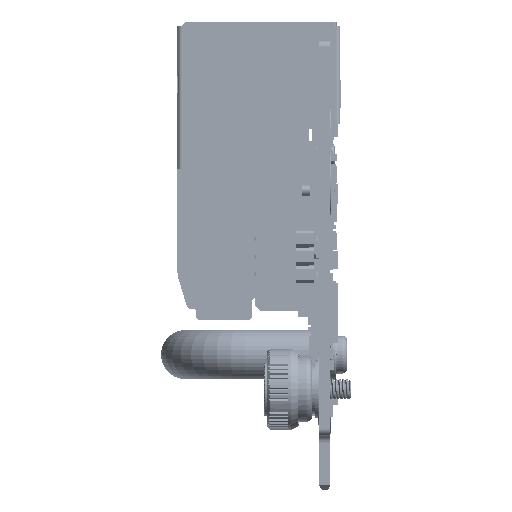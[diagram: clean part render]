
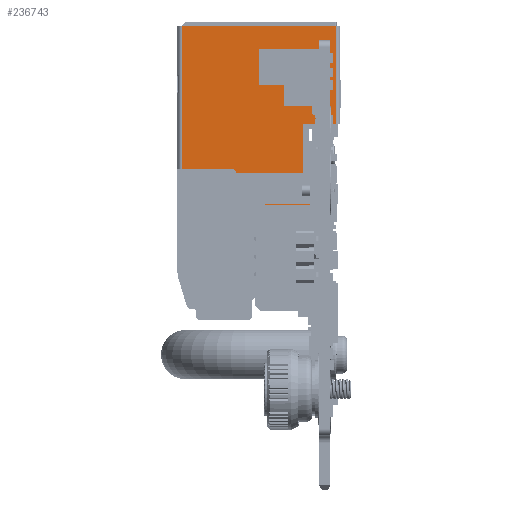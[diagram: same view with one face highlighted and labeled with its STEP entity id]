
A CAD part, left-side view. The second image highlights one B-rep face of the part: STEP entity #236743.
In plain terms, the highlighted planar face has unit normal (-1, 0, 0) as drawn and (0, 1, 0) by its records, which use the part's own axes.
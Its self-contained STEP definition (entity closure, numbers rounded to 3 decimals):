
#225824=DIRECTION('',(0.,0.,1.));
#225825=VECTOR('',#225824,21.88);
#225826=CARTESIAN_POINT('',(0.6,6.5,-10.99));
#225827=LINE('',#225826,#225825);
#226032=DIRECTION('',(1.,0.,0.));
#226033=VECTOR('',#226032,20.25);
#226034=CARTESIAN_POINT('',(0.6,6.5,10.89));
#226035=LINE('',#226034,#226033);
#226036=CARTESIAN_POINT('',(21.35,6.5,3.715));
#226037=DIRECTION('',(0.,1.,0.));
#226038=DIRECTION('',(0.,0.,-1.));
#226039=AXIS2_PLACEMENT_3D('',#226036,#226037,#226038);
#226041=DIRECTION('',(0.,0.,1.));
#226042=VECTOR('',#226041,4.705);
#226043=CARTESIAN_POINT('',(14.55,6.5,-10.99));
#226044=LINE('',#226043,#226042);
#226045=DIRECTION('',(0.,0.,1.));
#226046=VECTOR('',#226045,7.007);
#226047=CARTESIAN_POINT('',(25.925,6.5,-8.035));
#226048=LINE('',#226047,#226046);
#226049=CARTESIAN_POINT('',(22.925,6.5,-1.028));
#226050=DIRECTION('',(0.,-1.,0.));
#226051=DIRECTION('',(1.,0.,0.));
#226052=AXIS2_PLACEMENT_3D('',#226049,#226050,#226051);
#226054=DIRECTION('',(-0.707,0.,0.707));
#226055=VECTOR('',#226054,1.757);
#226056=CARTESIAN_POINT('',(25.046,6.5,1.094));
#226057=LINE('',#226056,#226055);
#226058=CARTESIAN_POINT('',(21.682,6.5,0.215));
#226059=DIRECTION('',(0.,-1.,0.));
#226060=DIRECTION('',(0.707,0.,0.707));
#226061=AXIS2_PLACEMENT_3D('',#226058,#226059,#226060);
#226063=DIRECTION('',(1.,0.,0.));
#226064=VECTOR('',#226063,0.332);
#226065=CARTESIAN_POINT('',(21.35,6.5,3.215));
#226066=LINE('',#226065,#226064);
#226079=DIRECTION('',(0.,0.,-1.));
#226080=VECTOR('',#226079,7.175);
#226081=CARTESIAN_POINT('',(20.85,6.5,10.89));
#226082=LINE('',#226081,#226080);
#226209=DIRECTION('',(-1.,0.,0.));
#226210=VECTOR('',#226209,4.);
#226211=CARTESIAN_POINT('',(25.925,6.5,-8.035));
#226212=LINE('',#226211,#226210);
#226235=DIRECTION('',(0.,0.,1.));
#226236=VECTOR('',#226235,1.75);
#226237=CARTESIAN_POINT('',(21.925,6.5,-8.035));
#226238=LINE('',#226237,#226236);
#226243=DIRECTION('',(-1.,0.,0.));
#226244=VECTOR('',#226243,7.375);
#226245=CARTESIAN_POINT('',(21.925,6.5,-6.285));
#226246=LINE('',#226245,#226244);
#226269=DIRECTION('',(-1.,0.,0.));
#226270=VECTOR('',#226269,13.95);
#226271=CARTESIAN_POINT('',(14.55,6.5,-10.99));
#226272=LINE('',#226271,#226270);
#232736=CARTESIAN_POINT('',(0.6,6.5,-10.99));
#232737=VERTEX_POINT('',#232736);
#232738=CARTESIAN_POINT('',(0.6,6.5,10.89));
#232739=VERTEX_POINT('',#232738);
#232774=CARTESIAN_POINT('',(20.85,6.5,10.89));
#232775=VERTEX_POINT('',#232774);
#232786=CARTESIAN_POINT('',(21.35,6.5,3.215));
#232787=CARTESIAN_POINT('',(21.682,6.5,3.215));
#232788=VERTEX_POINT('',#232786);
#232789=VERTEX_POINT('',#232787);
#232790=CARTESIAN_POINT('',(20.85,6.5,3.715));
#232791=VERTEX_POINT('',#232790);
#232792=CARTESIAN_POINT('',(14.55,6.5,-10.99));
#232793=VERTEX_POINT('',#232792);
#232794=CARTESIAN_POINT('',(14.55,6.5,-6.285));
#232795=VERTEX_POINT('',#232794);
#232796=CARTESIAN_POINT('',(21.925,6.5,-6.285));
#232797=VERTEX_POINT('',#232796);
#232798=CARTESIAN_POINT('',(21.925,6.5,-8.035));
#232799=VERTEX_POINT('',#232798);
#232800=CARTESIAN_POINT('',(25.925,6.5,-8.035));
#232801=VERTEX_POINT('',#232800);
#232802=CARTESIAN_POINT('',(25.925,6.5,-1.028));
#232803=VERTEX_POINT('',#232802);
#232804=CARTESIAN_POINT('',(25.046,6.5,1.094));
#232805=VERTEX_POINT('',#232804);
#232806=CARTESIAN_POINT('',(23.804,6.5,2.336));
#232807=VERTEX_POINT('',#232806);
#236710=CARTESIAN_POINT('',(0.6,6.5,-11.19));
#236711=DIRECTION('',(0.,-1.,0.));
#236712=DIRECTION('',(0.,0.,1.));
#236713=AXIS2_PLACEMENT_3D('',#236710,#236711,#236712);
#236714=PLANE('',#236713);
#236716=ORIENTED_EDGE('',*,*,#236715,.F.);
#236718=ORIENTED_EDGE('',*,*,#236717,.T.);
#236720=ORIENTED_EDGE('',*,*,#236719,.F.);
#236721=ORIENTED_EDGE('',*,*,#236705,.F.);
#236722=ORIENTED_EDGE('',*,*,#236449,.F.);
#236724=ORIENTED_EDGE('',*,*,#236723,.F.);
#236726=ORIENTED_EDGE('',*,*,#236725,.T.);
#236728=ORIENTED_EDGE('',*,*,#236727,.F.);
#236730=ORIENTED_EDGE('',*,*,#236729,.F.);
#236732=ORIENTED_EDGE('',*,*,#236731,.F.);
#236734=ORIENTED_EDGE('',*,*,#236733,.T.);
#236736=ORIENTED_EDGE('',*,*,#236735,.T.);
#236738=ORIENTED_EDGE('',*,*,#236737,.T.);
#236740=ORIENTED_EDGE('',*,*,#236739,.T.);
#236741=EDGE_LOOP('',(#236716,#236718,#236720,#236721,#236722,#236724,#236726,
#236728,#236730,#236732,#236734,#236736,#236738,#236740));
#236742=FACE_OUTER_BOUND('',#236741,.F.);
#236743=ADVANCED_FACE('',(#236742),#236714,.F.);
#226040=CIRCLE('',#226039,0.5);
#226053=CIRCLE('',#226052,3.);
#226062=CIRCLE('',#226061,3.);
#236449=EDGE_CURVE('',#232737,#232739,#225827,.T.);
#236705=EDGE_CURVE('',#232739,#232775,#226035,.T.);
#236715=EDGE_CURVE('',#232788,#232789,#226066,.T.);
#236717=EDGE_CURVE('',#232788,#232791,#226040,.T.);
#236719=EDGE_CURVE('',#232775,#232791,#226082,.T.);
#236723=EDGE_CURVE('',#232793,#232737,#226272,.T.);
#236725=EDGE_CURVE('',#232793,#232795,#226044,.T.);
#236727=EDGE_CURVE('',#232797,#232795,#226246,.T.);
#236729=EDGE_CURVE('',#232799,#232797,#226238,.T.);
#236731=EDGE_CURVE('',#232801,#232799,#226212,.T.);
#236733=EDGE_CURVE('',#232801,#232803,#226048,.T.);
#236735=EDGE_CURVE('',#232803,#232805,#226053,.T.);
#236737=EDGE_CURVE('',#232805,#232807,#226057,.T.);
#236739=EDGE_CURVE('',#232807,#232789,#226062,.T.);
